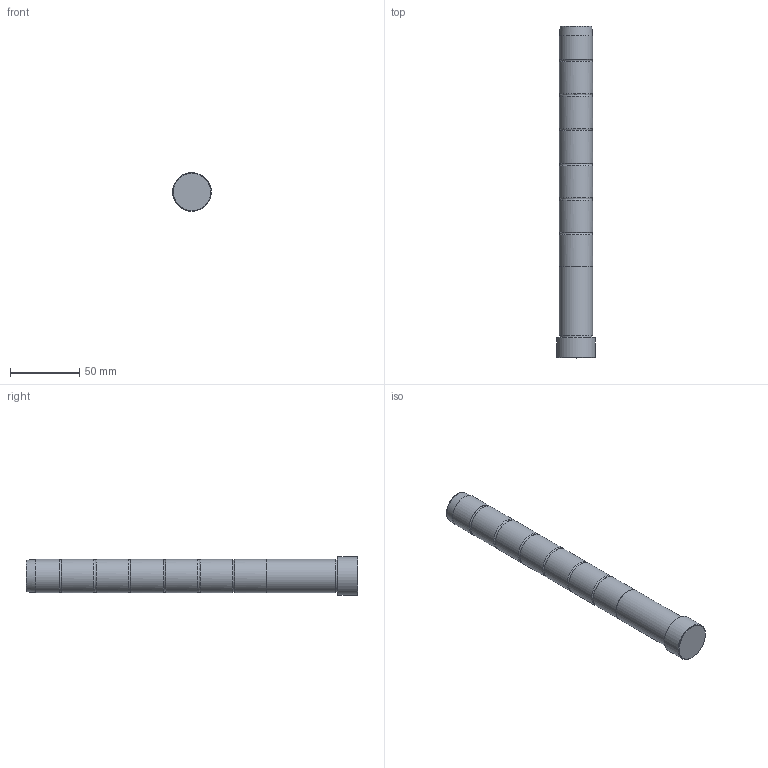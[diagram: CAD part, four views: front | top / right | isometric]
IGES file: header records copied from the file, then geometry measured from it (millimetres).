
Start section: Missler Software BP 521, 31674 Labege Cedex, France Tel   : +33 (0)5 61 00 03 00 Fax   : +33 (0)5 61 00 03 03 Email : sup.topsolid@topsolid.com
Global section: file name: D:\Cuma\24 03 2009\D01\D01_24X240.igs; native system: TopSolid v605250 Missler Software; preprocessor: IGES preprocessor v100000; date: 030101.004204; units: millimetre
Bounding box: 27.96 x 240 x 28 mm (x, y, z)
Surface area: 19602.1 mm2 (no closed solid volume)
Topology: 0 solids, 0 shells, 25 faces, 343 edges, 324 vertices
Faces by surface type: bspline 25
